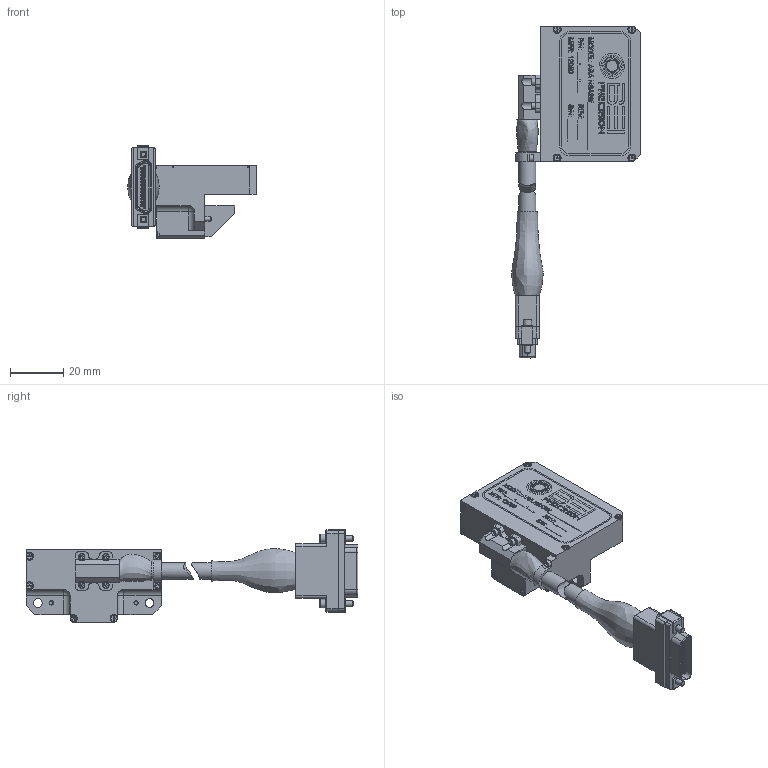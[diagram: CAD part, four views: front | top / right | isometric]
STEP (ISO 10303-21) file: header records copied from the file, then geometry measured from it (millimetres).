
FILE_DESCRIPTION (( 'STEP AP214' ), '1' );
FILE_NAME ('ARA Readhead Assy, Right Exit.STEP', '2021-02-24T18:36:09', ( '' ), ( '' ), 'SwSTEP 2.0', 'SolidWorks 2019', '' );
FILE_SCHEMA (( 'AUTOMOTIVE_DESIGN' ));
Length unit declared in the file: inch
Products named in the file (1): ARA Readhead Assy, Right Exit
Bounding box: 48.34 x 124.51 x 34.74 mm (x, y, z)
Volume: 40531.6 mm3; surface area: 13637.7 mm2
Topology: 2 solids, 14 shells, 1508 faces, 3777 edges, 2462 vertices
Faces by surface type: plane 1002, cylinder 233, bspline 198, cone 71, sphere 2, torus 2
Full cylindrical faces by diameter (mm): 0.508 x25, 0.635 x25, 1.3 x2, 1.513 x1, 1.524 x12, 1.575 x2, 1.58 x2, 1.59 x2, 1.778 x12, 2.08 x2, 2.1 x4, 2.3 x2, 2.337 x2, 2.339 x1, 2.36 x2, 2.438 x18, 3.18 x2, 3.277 x2, 6.35 x3
Entity records: 82300 total; most frequent: CARTESIAN_POINT 29147, ORIENTED_EDGE 6894, DIRECTION 6210, EDGE_CURVE 3447, VECTOR 2438, LINE 2438, VERTEX_POINT 2352, EDGE_LOOP 1931
